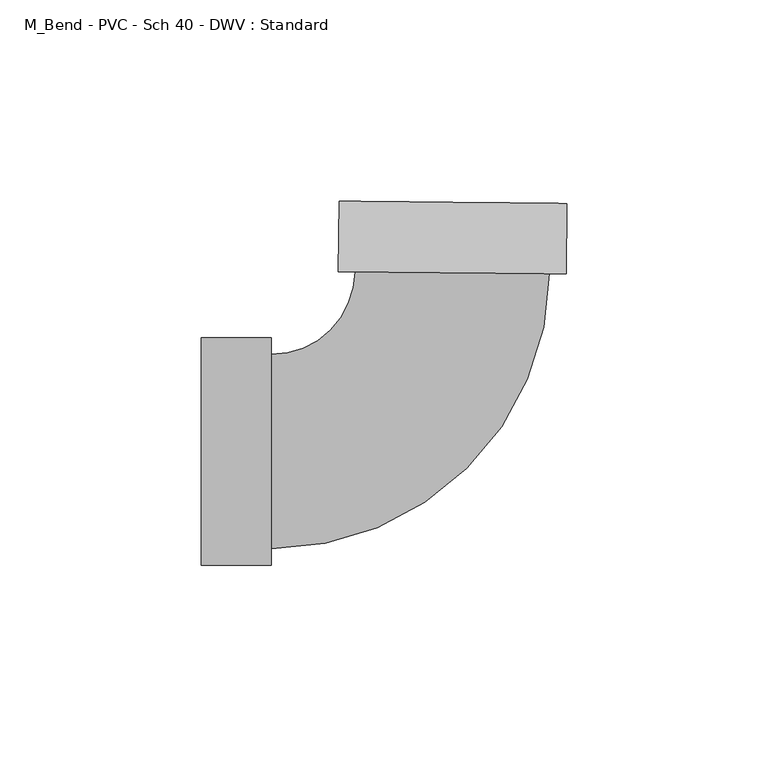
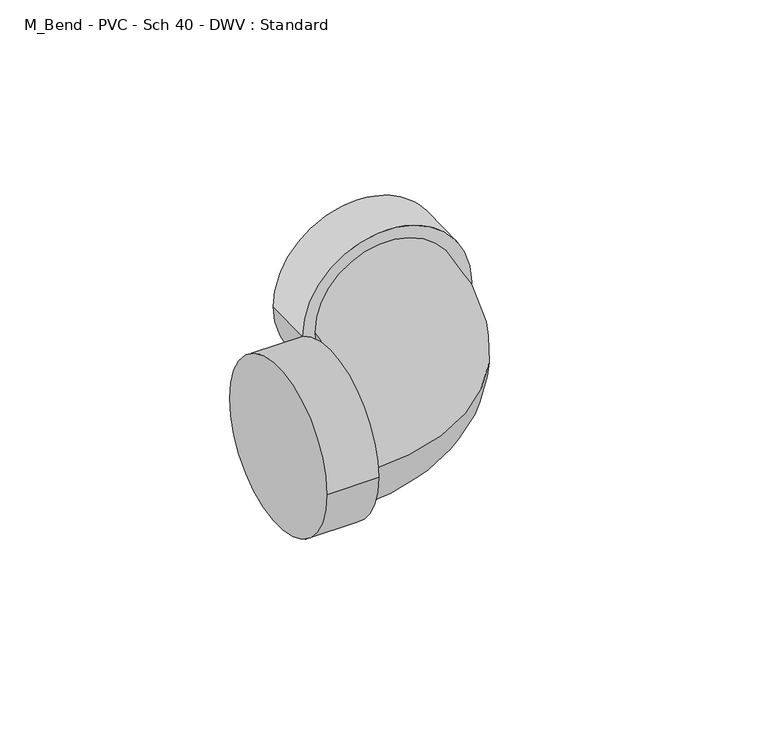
"""IFC4 building model written with IfcOpenShell, lengths in millimetres: pipe fitting geometry, M_Bend - PVC - Sch 40 - DWV : Standard."""

from ifc_helpers import new_model, si_unit, point, frame, origin, place, context, project, spatial, circle_curve, ellipse_curve, trimmed, source, transform, mapped, element, save
from ifc_brep_helpers import plane_surface, cylinder_surface, revolved_surface, advanced_brep


def m_bend_pvc_sch_40_dwv_standard_a69ec96e(model_context):
    return source(origin(), model_context, "Body", "AdvancedBrep", [
        advanced_brep(
        [(-61.8998, -28.2829, 0.0), (-61.8998, 28.2829, 0.0), (-44.45, -28.2829, 0.0), (-44.45, 28.2829, 0.0), (-44.45, -24.13, 0.0), (-44.45, 24.13, 0.0), (-23.6843279, 44.6890592, 0.0), (24.5732594, 44.2064964, 0.0), (28.7259518, 44.1649706, 0.0), (-27.8370203, 44.730585, 0.0), (28.9004363, 61.6138982, 0.0), (-27.6625358, 62.1795126, 0.0)],
        [
            (0, 1, circle_curve(frame((-61.8998, 0.0, 0.0), z_axis=(-1.0, 0.0, 0.0), x_axis=(0.0, 1.0, 0.0)), 28.2829)),
            (1, 0, circle_curve(frame((-61.8998, 0.0, 0.0), z_axis=(-1.0, 0.0, 0.0), x_axis=(0.0, 1.0, 0.0)), 28.2829)),
            (2, 3, circle_curve(frame((-44.45, 0.0, 0.0), z_axis=(1.0, 0.0, 0.0), x_axis=(0.0, 1.0, 0.0)), 28.2829)),
            (3, 2, circle_curve(frame((-44.45, 0.0, 0.0), z_axis=(1.0, 0.0, 0.0), x_axis=(0.0, 1.0, 0.0)), 28.2829)),
            (4, 5, circle_curve(frame((-44.45, 0.0, 0.0), z_axis=(-1.0, 0.0, 0.0), x_axis=(0.0, 1.0, 0.0)), 24.13)),
            (5, 4, circle_curve(frame((-44.45, 0.0, 0.0), z_axis=(-1.0, 0.0, 0.0), x_axis=(0.0, 1.0, 0.0)), 24.13)),
            (0, 2),
            (3, 1),
            (6, 5, circle_curve(frame((-44.45, 44.8967103, 0.0), z_axis=(0.0, 0.0, -1.0), x_axis=(0.0, -1.0, 0.0)), 20.7667103)),
            (4, 7, circle_curve(frame((-44.45, 44.8967103, 0.0), z_axis=(0.0, 0.0, 1.0), x_axis=(0.0, -1.0, 0.0)), 69.0267103)),
            (7, 6, circle_curve(frame((0.4444657, 44.4477778, 0.0), z_axis=(-0.00999922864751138, -0.9999500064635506, 0.0), x_axis=(-0.9999500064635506, 0.00999922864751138, 0.0)), 24.13)),
            (6, 7, circle_curve(frame((0.4444657, 44.4477778, 0.0), z_axis=(-0.00999922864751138, -0.9999500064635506, 0.0), x_axis=(-0.9999500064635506, 0.00999922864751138, 0.0)), 24.13)),
            (8, 9, circle_curve(frame((0.4444657, 44.4477778, 0.0), z_axis=(-0.009999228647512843, -0.9999500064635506, 0.0), x_axis=(-0.9999500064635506, 0.009999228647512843, 0.0)), 28.2829)),
            (9, 8, circle_curve(frame((0.4444657, 44.4477778, 0.0), z_axis=(-0.009999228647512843, -0.9999500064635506, 0.0), x_axis=(-0.9999500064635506, 0.009999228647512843, 0.0)), 28.2829)),
            (10, 11, circle_curve(frame((0.6189503, 61.8967054, 0.0), z_axis=(0.009999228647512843, 0.9999500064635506, 0.0), x_axis=(-0.9999500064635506, 0.009999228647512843, 0.0)), 28.2829)),
            (11, 10, circle_curve(frame((0.6189503, 61.8967054, 0.0), z_axis=(0.009999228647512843, 0.9999500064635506, 0.0), x_axis=(-0.9999500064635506, 0.009999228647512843, 0.0)), 28.2829)),
            (8, 10),
            (11, 9),
        ],
        [
            plane_surface(frame((-61.8998, 0.0, 0.0), z_axis=(-1.0, 0.0, 0.0), x_axis=(0.0, 0.0, 1.0))),
            plane_surface(frame((-44.45, 0.0, 0.0), z_axis=(1.0, 0.0, 0.0), x_axis=(0.0, 0.0, 1.0))),
            cylinder_surface(frame((-61.8998, 0.0, 0.0), z_axis=(-1.0, 0.0, 0.0), x_axis=(0.0, 1.0, 0.0)), 28.2829),
            revolved_surface(trimmed(ellipse_curve(frame((-44.45, 0.0, 0.0), z_axis=(-1.0, 0.0, 0.0), x_axis=(0.0, 1.0, 0.0)), 24.13, 24.13), [point((-44.45, -24.13, 0.0))], [point((-44.45, 24.13, 0.0))], True, "CARTESIAN"), (-44.45, 44.8967103, 0.0), (0.0, 0.0, 1.0)),
            revolved_surface(trimmed(ellipse_curve(frame((-44.45, 0.0, 0.0), z_axis=(-1.0, 0.0, 0.0), x_axis=(0.0, 1.0, 0.0)), 24.13, 24.13), [point((-44.45, 24.13, 0.0))], [point((-44.45, -24.13, 0.0))], True, "CARTESIAN"), (-44.45, 44.8967103, 0.0), (0.0, 0.0, 1.0)),
            plane_surface(frame((0.4444657, 44.4477778, 0.0), z_axis=(-0.009999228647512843, -0.9999500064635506, 0.0), x_axis=(0.0, 0.0, 1.0))),
            plane_surface(frame((0.6189503, 61.8967054, 0.0), z_axis=(0.009999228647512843, 0.9999500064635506, 0.0), x_axis=(0.0, 0.0, 1.0))),
            cylinder_surface(frame((0.4444657, 44.4477778, 0.0), z_axis=(-0.009999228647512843, -0.9999500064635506, 0.0), x_axis=(-0.9999500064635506, 0.009999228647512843, 0.0)), 28.2829),
        ],
        [
            (0, [[1, 2]]),
            (1, [[3, 4], [5, 6]]),
            (2, [[-1, 7, -4, 8]]),
            (2, [[-2, -8, -3, -7]]),
            (3, [[9, -5, 10, 11]]),
            (4, [[-9, 12, -10, -6]]),
            (5, [[13, 14], [-11, -12]]),
            (6, [[15, 16]]),
            (7, [[-13, 17, -16, 18]]),
            (7, [[-14, -18, -15, -17]]),
        ],
    ),
    ])


if __name__ == "__main__":
    model = new_model("IFC4")
    model_context = context("Model", 3, world=origin())
    ifc_project = project(units=[si_unit("LENGTHUNIT", "METRE", prefix="MILLI")], contexts=[model_context])
    site = spatial("IfcSite", under=ifc_project)
    building = spatial("IfcBuilding", under=site)
    placement = place(None, origin())
    m_bend_pvc_sch_40_dwv_standard_shape = m_bend_pvc_sch_40_dwv_standard_a69ec96e(model_context)
    element("IfcPipeFitting", 1, ObjectType="M_Bend - PVC - Sch 40 - DWV : Standard", at=placement, inside=building, context=model_context, shape_type="MappedRepresentation", body=[
        mapped(m_bend_pvc_sch_40_dwv_standard_shape, transform((0.0, 0.0, 0.0), x_axis=(1.0, 0.0, 0.0), y_axis=(0.0, 1.0, 0.0), z_axis=(0.0, 0.0, 1.0))),
    ])
    save(model, "model.ifc")
